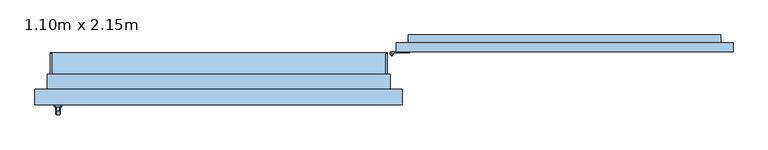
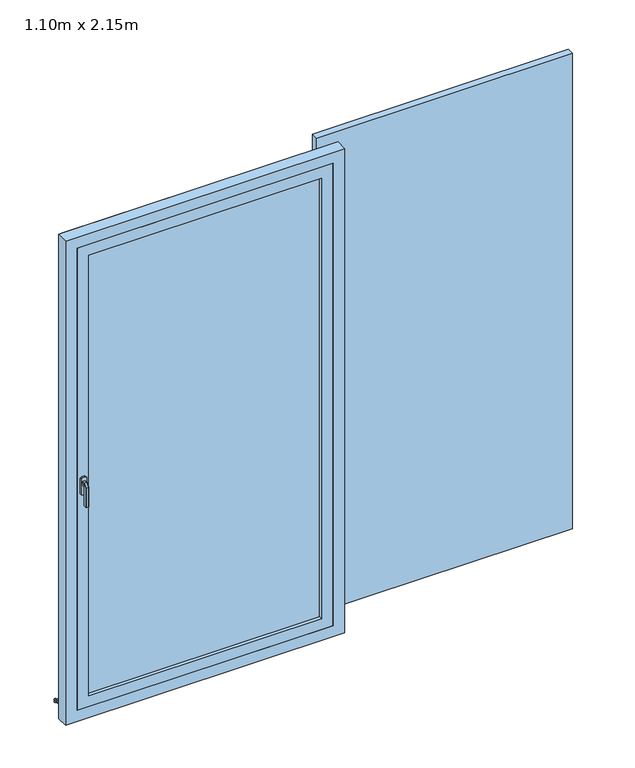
"""IFC4 building model written with IfcOpenShell, lengths in millimetres: window geometry, PF 1 Vantail droit - Volet et petits bois : 1.10m x 2.15m."""

from ifc_helpers import new_model, si_unit, point, frame, frame_2d, origin, place, context, project, spatial, polyline, circle_curve, trimmed, segment, composite_curve, outline, extrude, faceted_brep, source, transform, mapped, element, save
from ifc_brep_helpers import plane_surface, cylinder_surface, advanced_brep


def window_1_10m_x_2_15m_8741d377(model_context):
    return source(origin(), model_context, "Body", "SolidModel", [
        extrude(outline(polyline([(1680.0, 93.0), (580.0, 93.0), (580.0, 123.0), (1680.0, 123.0), (1680.0, 93.0)])), frame((0.0, 0.0, 25.0), z_axis=(0.0, 0.0, 1.0), x_axis=(1.0, 0.0, 0.0)), (0.0, 0.0, 1.0), 2160.0),
        advanced_brep(
        [(560.0, 88.0, 225.0), (570.0, 88.0, 225.0), (560.0, 88.0, 200.0), (570.0, 88.0, 200.0), (567.0, 83.4174243, 205.0), (563.0, 83.4174243, 205.0), (563.0, 83.4174243, 215.0), (567.0, 83.4174243, 215.0), (563.0, 80.0, 215.0), (567.0, 80.0, 215.0), (567.0, 80.0, 205.0), (563.0, 80.0, 205.0)],
        [
            (0, 1, circle_curve(frame((565.0, 88.0, 225.0), z_axis=(0.0, 0.0, 1.0), x_axis=(1.0, 0.0, 0.0)), 5.0)),
            (1, 0, circle_curve(frame((565.0, 88.0, 225.0), z_axis=(0.0, 0.0, 1.0), x_axis=(1.0, 0.0, 0.0)), 5.0)),
            (2, 3, circle_curve(frame((565.0, 88.0, 200.0), z_axis=(0.0, 0.0, -1.0), x_axis=(1.0, 0.0, 0.0)), 5.0)),
            (3, 2, circle_curve(frame((565.0, 88.0, 200.0), z_axis=(0.0, 0.0, -1.0), x_axis=(1.0, 0.0, 0.0)), 5.0)),
            (0, 2),
            (3, 1),
            (4, 5, circle_curve(frame((565.0, 88.0, 205.0), z_axis=(0.0, 0.0, -1.0), x_axis=(1.0, 0.0, 0.0)), 5.0)),
            (5, 6),
            (6, 7, circle_curve(frame((565.0, 88.0, 215.0), z_axis=(0.0, 0.0, 1.0), x_axis=(1.0, 0.0, 0.0)), 5.0)),
            (7, 4),
            (8, 9),
            (9, 7),
            (6, 8),
            (10, 11),
            (11, 5),
            (4, 10),
            (9, 10),
            (11, 8),
        ],
        [
            plane_surface(frame((570.0, 88.0, 225.0), z_axis=(0.0, 0.0, 1.0), x_axis=(0.0, 1.0, 0.0))),
            plane_surface(frame((570.0, 88.0, 200.0), z_axis=(0.0, 0.0, -1.0), x_axis=(0.0, -1.0, 0.0))),
            cylinder_surface(frame((565.0, 88.0, 200.0), z_axis=(0.0, 0.0, 1.0), x_axis=(1.0, 0.0, 0.0)), 5.0),
            plane_surface(frame((567.0, 80.0, 215.0), z_axis=(0.0, 0.0, 1.0), x_axis=(0.0, 1.0, 0.0))),
            plane_surface(frame((567.0, 80.0, 205.0), z_axis=(0.0, 0.0, -1.0), x_axis=(0.0, -1.0, 0.0))),
            plane_surface(frame((567.0, 80.0, 215.0), z_axis=(1.0, 0.0, 0.0), x_axis=(0.0, 0.0, -1.0))),
            plane_surface(frame((563.0, 85.0, 215.0), z_axis=(-1.0, 0.0, 0.0), x_axis=(0.0, 0.0, -1.0))),
            plane_surface(frame((563.0, 80.0, 215.0), z_axis=(0.0, -1.0, 0.0), x_axis=(0.0, 0.0, -1.0))),
        ],
        [
            (0, [[1, 2]]),
            (1, [[3, 4]]),
            (2, [[-1, 5, -4, 6], [7, 8, 9, 10]]),
            (2, [[-2, -6, -3, -5]]),
            (3, [[11, 12, -9, 13]]),
            (4, [[14, 15, -7, 16]]),
            (5, [[17, -16, -10, -12]]),
            (6, [[18, -13, -8, -15]]),
            (7, [[-11, -18, -14, -17]]),
        ],
    ),
        extrude(outline(composite_curve([segment(polyline([(565.0, 93.0), (624.3092325, 93.0), (624.3092325, 90.5), (565.0, 90.5)]), True, "CONTINUOUS"), segment(trimmed(circle_curve(frame_2d((565.0, 88.0)), 2.5), [point((565.0, 90.5))], [point((567.5, 88.0))], True, "CARTESIAN"), True, "CONTINUOUS"), segment(polyline([(567.5, 88.0), (570.0, 88.0)]), True, "CONTINUOUS"), segment(trimmed(circle_curve(frame_2d((565.0, 88.0)), 5.0), [point((570.0, 88.0))], [point((565.0, 93.0))], False, "CARTESIAN"), True, "CONTINUOUS")], self_intersect=False)), frame((0.0, 0.0, 225.0), z_axis=(0.0, 0.0, 1.0), x_axis=(1.0, 0.0, 0.0)), (0.0, 0.0, 1.0), 25.0),
        extrude(outline(composite_curve([segment(trimmed(circle_curve(frame_2d((565.0, 88.0)), 2.5), [point((562.5, 88.0))], [point((567.5, 88.0))], False, "CARTESIAN"), True, "CONTINUOUS"), segment(trimmed(circle_curve(frame_2d((565.0, 88.0)), 2.5), [point((567.5, 88.0))], [point((562.5, 88.0))], False, "CARTESIAN"), True, "CONTINUOUS")], self_intersect=False)), frame((0.0, 0.0, 225.0), z_axis=(0.0, 0.0, 1.0), x_axis=(1.0, 0.0, 0.0)), (0.0, 0.0, 1.0), 25.0),
        advanced_brep(
        [(560.0, 88.0, 1985.0), (570.0, 88.0, 1985.0), (560.0, 88.0, 1960.0), (570.0, 88.0, 1960.0), (563.0, 83.4174243, 1975.0), (567.0, 83.4174243, 1975.0), (567.0, 83.4174243, 1965.0), (563.0, 83.4174243, 1965.0), (563.0, 80.0, 1975.0), (567.0, 80.0, 1975.0), (563.0, 80.0, 1965.0), (567.0, 80.0, 1965.0)],
        [
            (0, 1, circle_curve(frame((565.0, 88.0, 1985.0), z_axis=(0.0, 0.0, 1.0), x_axis=(1.0, 0.0, 0.0)), 5.0)),
            (1, 0, circle_curve(frame((565.0, 88.0, 1985.0), z_axis=(0.0, 0.0, 1.0), x_axis=(1.0, 0.0, 0.0)), 5.0)),
            (2, 3, circle_curve(frame((565.0, 88.0, 1960.0), z_axis=(0.0, 0.0, -1.0), x_axis=(1.0, 0.0, 0.0)), 5.0)),
            (3, 2, circle_curve(frame((565.0, 88.0, 1960.0), z_axis=(0.0, 0.0, -1.0), x_axis=(1.0, 0.0, 0.0)), 5.0)),
            (0, 2),
            (3, 1),
            (4, 5, circle_curve(frame((565.0, 88.0, 1975.0), z_axis=(0.0, 0.0, 1.0), x_axis=(1.0, 0.0, 0.0)), 5.0)),
            (5, 6),
            (6, 7, circle_curve(frame((565.0, 88.0, 1965.0), z_axis=(0.0, 0.0, -1.0), x_axis=(1.0, 0.0, 0.0)), 5.0)),
            (7, 4),
            (8, 9),
            (9, 5),
            (4, 8),
            (10, 7),
            (6, 11),
            (11, 10),
            (8, 10),
            (11, 9),
        ],
        [
            plane_surface(frame((570.0, 88.0, 1985.0), z_axis=(0.0, 0.0, 1.0), x_axis=(0.0, 1.0, 0.0))),
            plane_surface(frame((570.0, 88.0, 1960.0), z_axis=(0.0, 0.0, -1.0), x_axis=(0.0, -1.0, 0.0))),
            cylinder_surface(frame((565.0, 88.0, 1960.0), z_axis=(0.0, 0.0, 1.0), x_axis=(1.0, 0.0, 0.0)), 5.0),
            plane_surface(frame((563.0, 80.0, 1975.0), z_axis=(0.0, 0.0, 1.0), x_axis=(1.0, 0.0, 0.0))),
            plane_surface(frame((563.0, 80.0, 1965.0), z_axis=(0.0, 0.0, -1.0), x_axis=(-1.0, 0.0, 0.0))),
            plane_surface(frame((563.0, 80.0, 1975.0), z_axis=(0.0, -1.0, 0.0), x_axis=(0.0, 0.0, -1.0))),
            plane_surface(frame((567.0, 80.0, 1975.0), z_axis=(1.0, 0.0, 0.0), x_axis=(0.0, 0.0, -1.0))),
            plane_surface(frame((563.0, 83.4174243, 1975.0), z_axis=(-1.0, 0.0, 0.0), x_axis=(0.0, 0.0, -1.0))),
        ],
        [
            (0, [[1, 2]]),
            (1, [[3, 4]]),
            (2, [[-1, 5, -4, 6], [7, 8, 9, 10]]),
            (2, [[-2, -6, -3, -5]]),
            (3, [[11, 12, -7, 13]]),
            (4, [[14, -9, 15, 16]]),
            (5, [[-11, 17, -16, 18]]),
            (6, [[-12, -18, -15, -8]]),
            (7, [[-13, -10, -14, -17]]),
        ],
    ),
        extrude(outline(polyline([(563.0, 80.0), (563.0, 83.4174243), (567.0, 83.4174243), (567.0, 80.0), (563.0, 80.0)])), frame((0.0, 0.0, 1085.0), z_axis=(0.0, 0.0, 1.0), x_axis=(1.0, 0.0, 0.0)), (0.0, 0.0, 1.0), 10.0),
        extrude(outline(composite_curve([segment(polyline([(565.0, 93.0), (624.3092325, 93.0), (624.3092325, 90.5), (565.0, 90.5)]), True, "CONTINUOUS"), segment(trimmed(circle_curve(frame_2d((565.0, 88.0)), 2.5), [point((565.0, 90.5))], [point((562.5, 88.0))], True, "CARTESIAN"), True, "CONTINUOUS"), segment(trimmed(circle_curve(frame_2d((565.0, 88.0)), 2.5), [point((562.5, 88.0))], [point((567.5, 88.0))], True, "CARTESIAN"), True, "CONTINUOUS"), segment(polyline([(567.5, 88.0), (570.0, 88.0)]), True, "CONTINUOUS"), segment(trimmed(circle_curve(frame_2d((565.0, 88.0)), 5.0), [point((570.0, 88.0))], [point((565.0, 93.0))], False, "CARTESIAN"), True, "CONTINUOUS")], self_intersect=False)), frame((0.0, 0.0, 1105.0), z_axis=(0.0, 0.0, 1.0), x_axis=(1.0, 0.0, 0.0)), (0.0, 0.0, 1.0), 25.0),
        extrude(outline(composite_curve([segment(trimmed(circle_curve(frame_2d((565.0, 88.0)), 2.5), [point((562.5, 88.0))], [point((567.5, 88.0))], False, "CARTESIAN"), True, "CONTINUOUS"), segment(trimmed(circle_curve(frame_2d((565.0, 88.0)), 2.5), [point((567.5, 88.0))], [point((562.5, 88.0))], False, "CARTESIAN"), True, "CONTINUOUS")], self_intersect=False)), frame((0.0, 0.0, 1105.0), z_axis=(0.0, 0.0, 1.0), x_axis=(1.0, 0.0, 0.0)), (0.0, 0.0, 1.0), 25.0),
        extrude(outline(composite_curve([segment(trimmed(circle_curve(frame_2d((565.0, 88.0)), 5.0), [point((560.0, 88.0))], [point((570.0, 88.0))], False, "CARTESIAN"), True, "CONTINUOUS"), segment(trimmed(circle_curve(frame_2d((565.0, 88.0)), 5.0), [point((570.0, 88.0))], [point((560.0, 88.0))], False, "CARTESIAN"), True, "CONTINUOUS")], self_intersect=False)), frame((0.0, 0.0, 1080.0), z_axis=(0.0, 0.0, 1.0), x_axis=(1.0, 0.0, 0.0)), (0.0, 0.0, 1.0), 25.0),
        extrude(outline(composite_curve([segment(polyline([(565.0, 93.0), (624.3092325, 93.0), (624.3092325, 90.5), (565.0, 90.5)]), True, "CONTINUOUS"), segment(trimmed(circle_curve(frame_2d((565.0, 88.0)), 2.5), [point((565.0, 90.5))], [point((567.5, 88.0))], True, "CARTESIAN"), True, "CONTINUOUS"), segment(polyline([(567.5, 88.0), (570.0, 88.0)]), True, "CONTINUOUS"), segment(trimmed(circle_curve(frame_2d((565.0, 88.0)), 5.0), [point((570.0, 88.0))], [point((565.0, 93.0))], False, "CARTESIAN"), True, "CONTINUOUS")], self_intersect=False)), frame((0.0, 0.0, 1985.0), z_axis=(0.0, 0.0, 1.0), x_axis=(1.0, 0.0, 0.0)), (0.0, 0.0, 1.0), 25.0),
        extrude(outline(composite_curve([segment(trimmed(circle_curve(frame_2d((565.0, 88.0)), 2.5), [point((562.5, 88.0))], [point((567.5, 88.0))], False, "CARTESIAN"), True, "CONTINUOUS"), segment(trimmed(circle_curve(frame_2d((565.0, 88.0)), 2.5), [point((567.5, 88.0))], [point((562.5, 88.0))], False, "CARTESIAN"), True, "CONTINUOUS")], self_intersect=False)), frame((0.0, 0.0, 1985.0), z_axis=(0.0, 0.0, 1.0), x_axis=(1.0, 0.0, 0.0)), (0.0, 0.0, 1.0), 25.0),
        extrude(outline(polyline([(1945.0, 1519.6129779), (1145.0, 620.0), (1145.0, 740.3870221), (1945.0, 1640.0), (1945.0, 1519.6129779)])), frame((0.0, 123.0, 0.0), z_axis=(0.0, 1.0, 0.0), x_axis=(0.0, 0.0, 1.0)), (0.0, 0.0, 1.0), 25.0),
        extrude(outline(polyline([(265.0, 740.3877474), (1065.0, 1640.0007252), (1065.0, 1519.6137031), (265.0, 620.0007252), (265.0, 740.3877474)])), frame((0.0, 123.0, 0.0), z_axis=(0.0, 1.0, 0.0), x_axis=(0.0, 0.0, 1.0)), (0.0, 0.0, 1.0), 25.0),
        extrude(outline(polyline([(620.0, 148.0), (1640.0, 148.0), (1640.0, 123.0), (620.0, 123.0), (620.0, 148.0)])), frame((0.0, 0.0, 1945.0), z_axis=(0.0, 0.0, 1.0), x_axis=(1.0, 0.0, 0.0)), (0.0, 0.0, 1.0), 80.0),
        extrude(outline(polyline([(620.0, 148.0), (1640.0, 148.0), (1640.0, 123.0), (620.0, 123.0), (620.0, 148.0)])), frame((0.0, 0.0, 185.0), z_axis=(0.0, 0.0, 1.0), x_axis=(1.0, 0.0, 0.0)), (0.0, 0.0, 1.0), 80.0),
        extrude(outline(polyline([(620.0, 148.0), (1640.0, 148.0), (1640.0, 123.0), (620.0, 123.0), (620.0, 148.0)])), frame((0.0, 0.0, 1065.0), z_axis=(0.0, 0.0, 1.0), x_axis=(1.0, 0.0, 0.0)), (0.0, 0.0, 1.0), 80.0),
        faceted_brep([(-519.3539903, -86.0, 1122.0339292), (-517.9660708, -86.0, 1120.6460097), (-517.9660708, -86.0, 1109.3323012), (-519.3323012, -86.0, 1107.9660708), (-530.6676988, -86.0, 1107.9660708), (-532.0339292, -86.0, 1109.3323012), (-532.0339292, -86.0, 1120.6460097), (-530.6460097, -86.0, 1122.0339292), (-519.3539903, -98.9135489, 1122.0339292), (-517.9660708, -98.3386538, 1120.6460097), (-517.9660708, -111.6460097, 1107.3386538), (-517.9660708, -111.6460097, 1020.0), (-517.9660708, -100.3323012, 1020.0), (-517.9660708, -100.3323012, 1102.6523623), (-517.9660708, -93.6523623, 1109.3323012), (-519.3323012, -93.0864511, 1107.9660708), (-530.6676988, -93.0864511, 1107.9660708), (-532.0339292, -93.6523623, 1109.3323012), (-532.0339292, -100.3323012, 1102.6523623), (-532.0339292, -100.3323012, 1020.0), (-532.0339292, -111.6460097, 1020.0), (-532.0339292, -111.6460097, 1107.3386538), (-532.0339292, -98.3386538, 1120.6460097), (-530.6460097, -98.9135489, 1122.0339292), (-519.3539903, -113.0339292, 1107.9135489), (-519.3323012, -98.9660708, 1102.0864511), (-530.6676988, -98.9660708, 1102.0864511), (-530.6460097, -113.0339292, 1107.9135489), (-519.3539903, -113.0339292, 1020.0), (-530.6460097, -113.0339292, 1020.0), (-530.6676988, -98.9660708, 1020.0), (-519.3323012, -98.9660708, 1020.0)], [[[0, 1, 2, 3, 4, 5, 6, 7]], [[1, 0, 8, 9]], [[2, 1, 9, 10, 11, 12, 13, 14]], [[3, 2, 14, 15]], [[4, 3, 15, 16]], [[5, 4, 16, 17]], [[6, 5, 17, 18, 19, 20, 21, 22]], [[7, 6, 22, 23]], [[0, 7, 23, 8]], [[9, 8, 24, 10]], [[15, 14, 13, 25]], [[16, 15, 25, 26]], [[17, 16, 26, 18]], [[23, 22, 21, 27]], [[8, 23, 27, 24]], [[28, 29, 20, 19, 30, 31, 12, 11]], [[10, 24, 28, 11]], [[25, 13, 12, 31]], [[26, 25, 31, 30]], [[18, 26, 30, 19]], [[27, 21, 20, 29]], [[24, 27, 29, 28]]]),
        extrude(outline(polyline([(1140.0, -518.0), (1140.0, -532.0), (1135.0, -537.0), (1065.0, -537.0), (1060.0, -532.0), (1060.0, -518.0), (1065.0, -513.0), (1135.0, -513.0), (1140.0, -518.0)])), frame((0.0, -86.0, 0.0), z_axis=(0.0, 1.0, 0.0), x_axis=(0.0, 0.0, 1.0)), (0.0, 0.0, 1.0), 6.0),
        extrude(outline(polyline([(90.0288776, 30.7927954), (90.0288776, 19.7145929), (85.0288776, 20.2401141), (85.0288776, 26.0631048), (0.0, 35.0), (0.0, 50.0), (5.0, 50.0), (5.0, 39.7296906), (90.0288776, 30.7927954)])), frame((-550.0, 0.0, 0.0), z_axis=(1.0, 0.0, 0.0), x_axis=(0.0, 1.0, 0.0)), (0.0, 0.0, 1.0), 1100.0),
        extrude(outline(composite_curve([segment(polyline([(90.0288776, 30.7927954), (5.0, 39.7296906), (5.0, 44.757232), (86.4469915, 36.1968082)]), True, "CONTINUOUS"), segment(trimmed(circle_curve(frame_2d((86.0288776, 32.2187207)), 4.0), [point((86.4469915, 36.1968082))], [point((90.0288776, 32.2187207))], False, "CARTESIAN"), True, "CONTINUOUS"), segment(polyline([(90.0288776, 32.2187207), (90.0288776, 30.7927954)]), True, "CONTINUOUS")], self_intersect=False)), frame((-550.0, 0.0, 0.0), z_axis=(1.0, 0.0, 0.0), x_axis=(0.0, 1.0, 0.0)), (0.0, 0.0, 1.0), 5.0),
        extrude(outline(composite_curve([segment(polyline([(90.0288776, 30.7927954), (5.0, 39.7296906), (5.0, 44.757232), (86.4469915, 36.1968082)]), True, "CONTINUOUS"), segment(trimmed(circle_curve(frame_2d((86.0288776, 32.2187207)), 4.0), [point((86.4469915, 36.1968082))], [point((90.0288776, 32.2187207))], False, "CARTESIAN"), True, "CONTINUOUS"), segment(polyline([(90.0288776, 32.2187207), (90.0288776, 30.7927954)]), True, "CONTINUOUS")], self_intersect=False)), frame((545.0, 0.0, 0.0), z_axis=(1.0, 0.0, 0.0), x_axis=(0.0, 1.0, 0.0)), (0.0, 0.0, 1.0), 5.0),
        extrude(outline(polyline([(-500.0, -54.0), (500.0, -54.0), (500.0, -66.0), (-500.0, -66.0), (-500.0, -54.0)])), frame((0.0, 0.0, 135.0), z_axis=(0.0, 0.0, 1.0), x_axis=(1.0, 0.0, 0.0)), (0.0, 0.0, 1.0), 2000.0),
        extrude(outline(polyline([(85.0, 550.0), (2185.0, 550.0), (2185.0, -550.0), (85.0, -550.0), (85.0, 550.0)]), holes=[polyline([(135.0, -500.0), (2135.0, -500.0), (2135.0, 500.0), (135.0, 500.0), (135.0, -500.0)])]), frame((0.0, -80.0, 0.0), z_axis=(0.0, 1.0, 0.0), x_axis=(0.0, 0.0, 1.0)), (0.0, 0.0, 1.0), 40.0),
        faceted_brep([(-600.0, -80.0, 35.0), (-600.0, -30.0, 35.0), (-550.0, -30.0, 35.0), (-550.0, 0.0, 35.0), (550.0, 0.0, 35.0), (550.0, -30.0, 35.0), (600.0, -30.0, 35.0), (600.0, -80.0, 35.0), (-600.0, -80.0, 2235.0), (-600.0, -30.0, 2235.0), (600.0, -30.0, 2235.0), (550.0, -30.0, 74.3761425), (-550.0, -30.0, 74.3761425), (-535.0, -30.0, 2170.0), (-535.0, -30.0, 100.0), (535.0, -30.0, 100.0), (535.0, -30.0, 2170.0), (-550.0, 20.0, 60.9786829), (-550.0, 20.0, 45.0), (-550.0, 10.0, 45.0), (-550.0, 10.0, 50.0), (-550.0, 0.0, 50.0), (550.0, 0.0, 50.0), (550.0, 10.0, 50.0), (550.0, 10.0, 45.0), (550.0, 20.0, 45.0), (550.0, 20.0, 60.9786829), (600.0, -80.0, 2235.0), (550.0, -80.0, 2185.0), (550.0, -80.0, 85.0), (-550.0, -80.0, 85.0), (-550.0, -80.0, 2185.0), (-535.0, -40.0, 2170.0), (-535.0, -40.0, 100.0), (535.0, -40.0, 100.0), (535.0, -40.0, 2170.0), (550.0, -40.0, 2185.0), (-550.0, -40.0, 2185.0), (-550.0, -40.0, 85.0), (550.0, -40.0, 85.0)], [[[0, 1, 2, 3, 4, 5, 6, 7]], [[1, 0, 8, 9]], [[1, 9, 10, 6, 5, 11, 12, 2], [13, 14, 15, 16]], [[12, 17, 18, 19, 20, 21, 3, 2]], [[3, 21, 22, 4]], [[4, 22, 23, 24, 25, 26, 11, 5]], [[6, 10, 27, 7]], [[0, 7, 27, 8], [28, 29, 30, 31]], [[13, 32, 33, 14]], [[33, 34, 15, 14]], [[35, 16, 15, 34]], [[17, 12, 11, 26]], [[36, 37, 38, 39], [32, 35, 34, 33]], [[38, 37, 31, 30]], [[30, 29, 39, 38]], [[28, 36, 39, 29]], [[18, 17, 26, 25]], [[19, 18, 25, 24]], [[20, 19, 24, 23]], [[21, 20, 23, 22]], [[13, 16, 35, 32]], [[37, 36, 28, 31]], [[10, 9, 8, 27]]]),
        extrude(outline(polyline([(35.0, -560.0), (35.0, -550.0), (2185.0, -550.0), (2185.0, 550.0), (35.0, 550.0), (35.0, 560.0), (2195.0, 560.0), (2195.0, -560.0), (35.0, -560.0)])), frame((0.0, -30.0, 0.0), z_axis=(0.0, 1.0, 0.0), x_axis=(0.0, 0.0, 1.0)), (0.0, 0.0, 1.0), 50.0),
    ])


if __name__ == "__main__":
    model = new_model("IFC4")
    model_context = context("Model", 3, world=origin())
    ifc_project = project(units=[si_unit("LENGTHUNIT", "METRE", prefix="MILLI")], contexts=[model_context])
    site = spatial("IfcSite", under=ifc_project)
    building = spatial("IfcBuilding", under=site)
    placement = place(None, origin())
    window_1_10m_x_2_15m_shape = window_1_10m_x_2_15m_8741d377(model_context)
    element("IfcWindow", 1, ObjectType="PF 1 Vantail droit - Volet et petits bois : 1.10m x 2.15m", at=placement, inside=building, context=model_context, shape_type="MappedRepresentation", body=[
        mapped(window_1_10m_x_2_15m_shape, transform((0.0, 0.0, 0.0), x_axis=(1.0, 0.0, 0.0), y_axis=(0.0, 1.0, 0.0), z_axis=(0.0, 0.0, 1.0))),
    ])
    save(model, "model.ifc")
